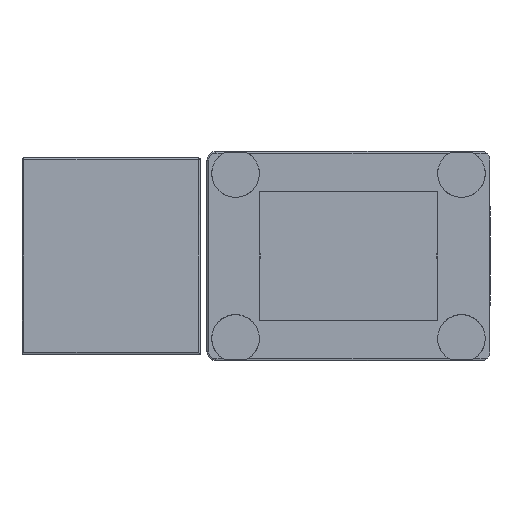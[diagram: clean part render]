
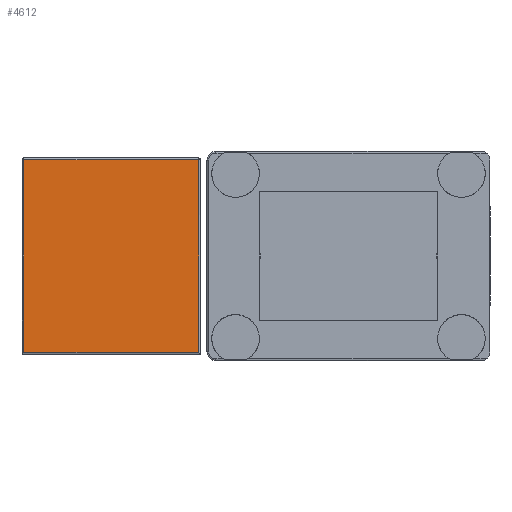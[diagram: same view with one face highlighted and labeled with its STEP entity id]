
A CAD part, left-side view. The second image highlights one B-rep face of the part: STEP entity #4612.
In plain terms, the highlighted planar face has unit normal (-1, 0, 0).
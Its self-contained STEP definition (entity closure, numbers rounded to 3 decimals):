
#126 = CARTESIAN_POINT ( 'NONE',  ( -38., 51.75, 10.8 ) ) ;
#191 = AXIS2_PLACEMENT_3D ( 'NONE', #3079, #3017, #8825 ) ;
#536 = ORIENTED_EDGE ( 'NONE', *, *, #2337, .T. ) ;
#1063 = ORIENTED_EDGE ( 'NONE', *, *, #6171, .T. ) ;
#1400 = CARTESIAN_POINT ( 'NONE',  ( -38., 31.95, 10.8 ) ) ;
#1581 = EDGE_CURVE ( 'NONE', #6411, #2880, #8386, .T. ) ;
#1659 = PLANE ( 'NONE',  #191 ) ;
#1850 = VECTOR ( 'NONE', #3966, 1000. ) ;
#2116 = FACE_OUTER_BOUND ( 'NONE', #2994, .T. ) ;
#2337 = EDGE_CURVE ( 'NONE', #2880, #2957, #3742, .T. ) ;
#2740 = VECTOR ( 'NONE', #5742, 1000. ) ;
#2880 = VERTEX_POINT ( 'NONE', #6903 ) ;
#2937 = VECTOR ( 'NONE', #5461, 1000. ) ;
#2957 = VERTEX_POINT ( 'NONE', #1400 ) ;
#2994 = EDGE_LOOP ( 'NONE', ( #1063, #4365, #536, #8845 ) ) ;
#3017 = DIRECTION ( 'NONE',  ( -1., 0., 0. ) ) ;
#3079 = CARTESIAN_POINT ( 'NONE',  ( -38., 49.75, -10. ) ) ;
#3742 = LINE ( 'NONE', #9025, #1850 ) ;
#3966 = DIRECTION ( 'NONE',  ( 0., 0., 1. ) ) ;
#4249 = EDGE_CURVE ( 'NONE', #2957, #7144, #7205, .T. ) ;
#4365 = ORIENTED_EDGE ( 'NONE', *, *, #1581, .T. ) ;
#4612 = ADVANCED_FACE ( 'NONE', ( #2116 ), #1659, .T. ) ;
#5122 = CARTESIAN_POINT ( 'NONE',  ( -38., 51.55, -10.8 ) ) ;
#5290 = VECTOR ( 'NONE', #6512, 1000. ) ;
#5461 = DIRECTION ( 'NONE',  ( 0., 0., -1. ) ) ;
#5709 = CARTESIAN_POINT ( 'NONE',  ( -38., 31.75, -10.8 ) ) ;
#5742 = DIRECTION ( 'NONE',  ( 0., -1., 0. ) ) ;
#6152 = CARTESIAN_POINT ( 'NONE',  ( -38., 51.55, -10. ) ) ;
#6171 = EDGE_CURVE ( 'NONE', #7144, #6411, #7579, .T. ) ;
#6411 = VERTEX_POINT ( 'NONE', #5122 ) ;
#6489 = CARTESIAN_POINT ( 'NONE',  ( -38., 51.55, 10.8 ) ) ;
#6512 = DIRECTION ( 'NONE',  ( 0., 1., 0. ) ) ;
#6903 = CARTESIAN_POINT ( 'NONE',  ( -38., 31.95, -10.8 ) ) ;
#7144 = VERTEX_POINT ( 'NONE', #6489 ) ;
#7205 = LINE ( 'NONE', #126, #5290 ) ;
#7579 = LINE ( 'NONE', #6152, #2937 ) ;
#8386 = LINE ( 'NONE', #5709, #2740 ) ;
#8825 = DIRECTION ( 'NONE',  ( 0., 0., 1. ) ) ;
#8845 = ORIENTED_EDGE ( 'NONE', *, *, #4249, .T. ) ;
#9025 = CARTESIAN_POINT ( 'NONE',  ( -38., 31.95, -10. ) ) ;
